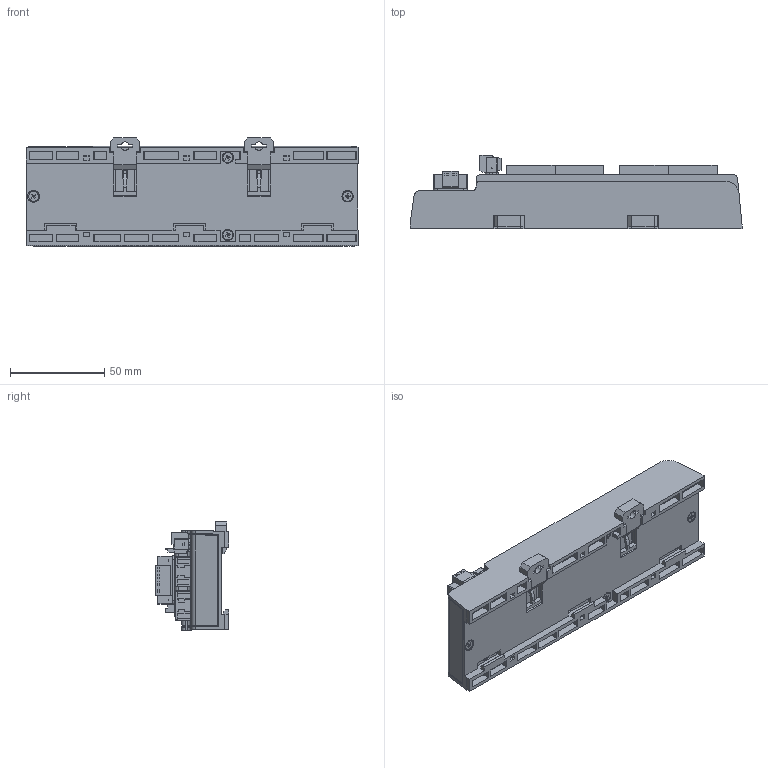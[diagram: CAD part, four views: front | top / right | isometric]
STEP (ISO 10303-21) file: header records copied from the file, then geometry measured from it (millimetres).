
FILE_DESCRIPTION (( 'STEP AP203' ), '1' );
FILE_NAME ('P118-DR-000-02-R00.STEP', '2019-03-25T08:06:20', ( '' ), ( '' ), 'SwSTEP 2.0', 'SolidWorks 2013', '' );
FILE_SCHEMA (( 'CONFIG_CONTROL_DESIGN' ));
Length unit declared in the file: millimetre
Products named in the file (29): pan cross head_ks(KS 1023 PC- M2.6 x 5-N); EtherCAT IO DIN LEVER-04-1; 瞪錳蕾樓攪喀攪; MC421-38102; EtherCAT IO PCB1-02-1; 瞪錳薄樓醴喀攪-1-1; cheese slotted head_ks_KS 1021 CS - M2.5 x 5-N; EtherCAT IO PCB2-02-1; 瞪錳薄樓醴喀攪-2-1; cheese slotted head_ks_KS 1021 CS - M1.6 x 3-N; 09455511103_100183220MOD000B; 瞪錳薄樓醴喀攪-3-1; 瞪錳薄樓醴喀攪-1; XN2D-4471; 瞪錳薄樓醴喀攪-4-1; 瞪錳薄樓醴喀攪-2; MC421-38104; pan cross head_ks(KS 1023 PC- M2.6 x 6-N); 瞪錳蕾樓攪喀攪5P; 瞪錳薄樓醴喀攪-3; countersunk flat cross head screw_ks(KS 1023 FC- M2.6 x 6-N); EtherCAT IO-1-04-1; 瞪錳薄樓醴喀攪-4; P118-DR-000-02-R00; countersunk flat cross head screw_ks(KS 1023 FC- M2.6 x 5-N); EtherCAT IO-2-04-1; 瞪錳薄樓醴喀攪-5
Assembly tree (52 placements, depth 3):
  P118-DR-000-02-R00
    瞪錳蕾樓攪喀攪
      瞪錳薄樓醴喀攪-1
      瞪錳薄樓醴喀攪-2
      瞪錳薄樓醴喀攪-3
      瞪錳薄樓醴喀攪-4
      瞪錳薄樓醴喀攪-5
    瞪錳蕾樓攪喀攪5P
      瞪錳薄樓醴喀攪-1-1
      瞪錳薄樓醴喀攪-2-1
      瞪錳薄樓醴喀攪-3-1
      瞪錳薄樓醴喀攪-4-1  x4
    EtherCAT IO-1-04-1
    EtherCAT IO-2-04-1
    EtherCAT IO DIN LEVER-04-1  x2
    EtherCAT IO PCB1-02-1
    EtherCAT IO PCB2-02-1
    09455511103_100183220MOD000B  x2
    XN2D-4471  x8
    pan cross head_ks(KS 1023 PC- M2.6 x 6-N)  x2
    countersunk flat cross head screw_ks(KS 1023 FC- M2.6 x 6-N)
    countersunk flat cross head screw_ks(KS 1023 FC- M2.6 x 5-N)  x3
    pan cross head_ks(KS 1023 PC- M2.6 x 5-N)  x2
    MC421-38102
      MC421-38102
      cheese slotted head_ks_KS 1021 CS - M2.5 x 5-N  x2
      cheese slotted head_ks_KS 1021 CS - M1.6 x 3-N  x2
    MC421-38104
      MC421-38104
      cheese slotted head_ks_KS 1021 CS - M2.5 x 5-N  x2
      cheese slotted head_ks_KS 1021 CS - M1.6 x 3-N  x4
Bounding box: 176 x 38.9 x 57.44 mm (x, y, z)
Volume: 114900.2 mm3; surface area: 122033.6 mm2
Topology: 48 solids, 48 shells, 3104 faces, 8476 edges, 5451 vertices
Faces by surface type: plane 2104, cylinder 727, cone 124, torus 72, sphere 52, bspline 25
Entity records: 73252 total; most frequent: CARTESIAN_POINT 15208, ORIENTED_EDGE 11742, DIRECTION 10627, EDGE_CURVE 5871, VECTOR 4379, LINE 4379, VERTEX_POINT 3816, AXIS2_PLACEMENT_3D 3124
